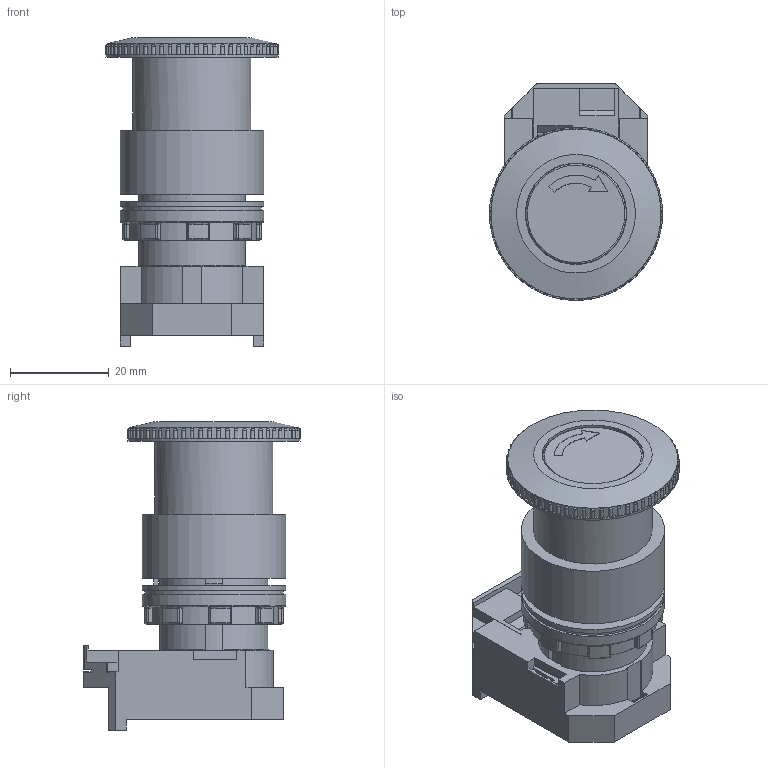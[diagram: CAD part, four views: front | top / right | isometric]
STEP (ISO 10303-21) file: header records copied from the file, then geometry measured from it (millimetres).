
FILE_DESCRIPTION((''),'2;1');
FILE_NAME('E:\WorkFolder\Serie\C2\C2XEK.stp','2009-08-06T16:11:34',('andre'),(''),'Autodesk Inventor 10','Autodesk Inventor 10','');
FILE_SCHEMA(('AUTOMOTIVE_DESIGN { 1 0 10303 214 1 1 1 1 }'));
Length unit declared in the file: millimetre
Products named in the file (1): C2XEK
Bounding box: 34.99 x 43.9 x 62.4 mm (x, y, z)
Volume: 33488.2 mm3; surface area: 14174.9 mm2
Topology: 1 solids, 4 shells, 785 faces, 2286 edges, 1433 vertices
Faces by surface type: plane 398, cylinder 210, sphere 94, bspline 58, cone 14, torus 11
Full cylindrical faces by diameter (mm): 0.6 x1, 7 x1, 17 x1, 20.5 x1, 24 x1, 28 x1, 29 x3, 34.4 x1, 35 x1
Entity records: 35054 total; most frequent: CARTESIAN_POINT 14580, ORIENTED_EDGE 4400, DIRECTION 4295, EDGE_CURVE 2200, AXIS2_PLACEMENT_3D 1557, VERTEX_POINT 1425, VECTOR 1181, LINE 1181
